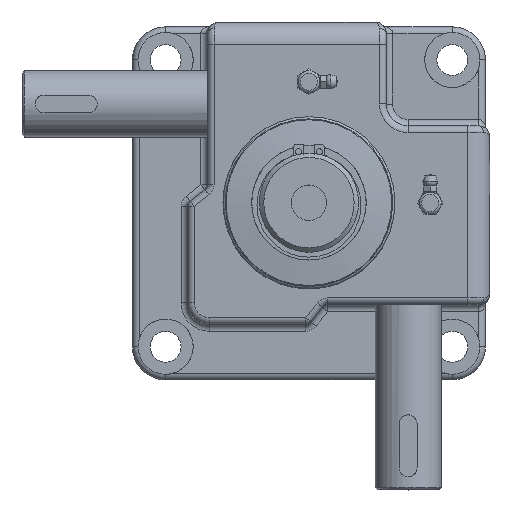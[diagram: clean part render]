
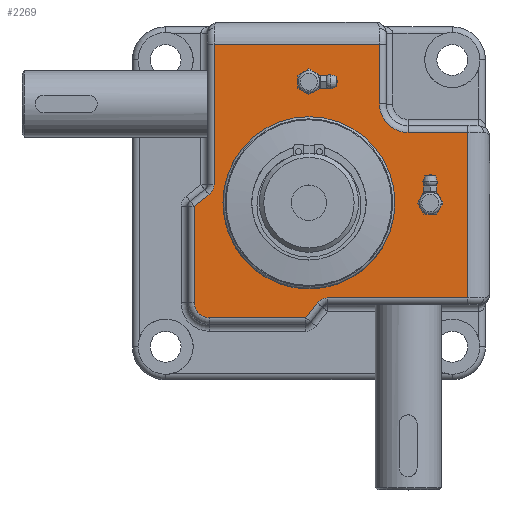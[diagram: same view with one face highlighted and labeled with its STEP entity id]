
A CAD part, top view. The second image highlights one B-rep face of the part: STEP entity #2269.
In plain terms, the highlighted planar face has unit normal (0, 0, 1).
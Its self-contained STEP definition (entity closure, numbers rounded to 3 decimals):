
#2269=ADVANCED_FACE('',(#5998,#5999,#6000,#6001),#6002,.T.);
#5998=FACE_OUTER_BOUND('',#12028,.T.);
#5999=FACE_BOUND('',#12029,.T.);
#6000=FACE_BOUND('',#12030,.T.);
#6001=FACE_BOUND('',#12031,.T.);
#6002=PLANE('',#12032);
#12028=EDGE_LOOP('',(#21237,#21238,#21239,#21240,#21241,#21242,#21243,#21244,#21245,#21246,#21247,#21248,#21249,#21250));
#12029=EDGE_LOOP('',(#21251));
#12030=EDGE_LOOP('',(#21252));
#12031=EDGE_LOOP('',(#21253));
#12032=AXIS2_PLACEMENT_3D('',#21254,#21255,#21256);
#21237=ORIENTED_EDGE('',*,*,#38950,.T.);
#21238=ORIENTED_EDGE('',*,*,#38959,.T.);
#21239=ORIENTED_EDGE('',*,*,#39336,.T.);
#21240=ORIENTED_EDGE('',*,*,#39012,.T.);
#21241=ORIENTED_EDGE('',*,*,#39337,.T.);
#21242=ORIENTED_EDGE('',*,*,#39338,.T.);
#21243=ORIENTED_EDGE('',*,*,#39339,.T.);
#21244=ORIENTED_EDGE('',*,*,#39340,.T.);
#21245=ORIENTED_EDGE('',*,*,#39031,.T.);
#21246=ORIENTED_EDGE('',*,*,#39341,.T.);
#21247=ORIENTED_EDGE('',*,*,#39342,.T.);
#21248=ORIENTED_EDGE('',*,*,#39313,.T.);
#21249=ORIENTED_EDGE('',*,*,#39343,.T.);
#21250=ORIENTED_EDGE('',*,*,#39344,.T.);
#21251=ORIENTED_EDGE('',*,*,#39345,.T.);
#21252=ORIENTED_EDGE('',*,*,#39346,.F.);
#21253=ORIENTED_EDGE('',*,*,#39137,.F.);
#21254=CARTESIAN_POINT('',(0.0,0.0,37.5));
#21255=DIRECTION('',(0.,0.,1.0));
#21256=DIRECTION('',(1.0,0.,0.));
#38950=EDGE_CURVE('',#46523,#46521,#46524,.T.);
#38959=EDGE_CURVE('',#46521,#46536,#46538,.T.);
#39012=EDGE_CURVE('',#46633,#46333,#46637,.T.);
#39031=EDGE_CURVE('',#46666,#46670,#46672,.T.);
#39137=EDGE_CURVE('',#46865,#46865,#46866,.T.);
#39313=EDGE_CURVE('',#47154,#47158,#47160,.T.);
#39336=EDGE_CURVE('',#46536,#46633,#47192,.T.);
#39337=EDGE_CURVE('',#46333,#47193,#47194,.T.);
#39338=EDGE_CURVE('',#47193,#47195,#47196,.T.);
#39339=EDGE_CURVE('',#47195,#47197,#47198,.T.);
#39340=EDGE_CURVE('',#47197,#46666,#47199,.T.);
#39341=EDGE_CURVE('',#46670,#47200,#47201,.T.);
#39342=EDGE_CURVE('',#47200,#47154,#47202,.T.);
#39343=EDGE_CURVE('',#47158,#47203,#47204,.T.);
#39344=EDGE_CURVE('',#47203,#46523,#47205,.T.);
#39345=EDGE_CURVE('',#47206,#47206,#47207,.T.);
#39346=EDGE_CURVE('',#47208,#47208,#47209,.T.);
#46333=VERTEX_POINT('',#59152);
#46521=VERTEX_POINT('',#59645);
#46523=VERTEX_POINT('',#59647);
#46524=LINE('',#59648,#59649);
#46536=VERTEX_POINT('',#59687);
#46538=LINE('',#59689,#59690);
#46633=VERTEX_POINT('',#59805);
#46637=LINE('',#59810,#59811);
#46666=VERTEX_POINT('',#59847);
#46670=VERTEX_POINT('',#59852);
#46672=LINE('',#59854,#59855);
#46865=VERTEX_POINT('',#60309);
#46866=CIRCLE('',#60310,4.0);
#47154=VERTEX_POINT('',#60730);
#47158=VERTEX_POINT('',#60735);
#47160=LINE('',#60737,#60738);
#47192=CIRCLE('',#60779,13.0);
#47193=VERTEX_POINT('',#60780);
#47194=LINE('',#60781,#60782);
#47195=VERTEX_POINT('',#60783);
#47196=LINE('',#60784,#60785);
#47197=VERTEX_POINT('',#60786);
#47198=CIRCLE('',#60787,6.0);
#47199=LINE('',#60788,#60789);
#47200=VERTEX_POINT('',#60790);
#47201=CIRCLE('',#60791,7.0);
#47202=LINE('',#60792,#60793);
#47203=VERTEX_POINT('',#60794);
#47204=CIRCLE('',#60795,6.0);
#47205=LINE('',#60796,#60797);
#47206=VERTEX_POINT('',#60798);
#47207=CIRCLE('',#60799,37.0);
#47208=VERTEX_POINT('',#60800);
#47209=CIRCLE('',#60801,4.0);
#59152=CARTESIAN_POINT('',(32.0,72.0,37.5));
#59645=CARTESIAN_POINT('',(72.0,32.0,37.5));
#59647=CARTESIAN_POINT('',(72.0,-43.0,37.5));
#59648=CARTESIAN_POINT('',(72.0,13.5,37.5));
#59649=VECTOR('',#76640,1.0);
#59687=CARTESIAN_POINT('',(45.0,32.0,37.5));
#59689=CARTESIAN_POINT('',(8.5,32.0,37.5));
#59690=VECTOR('',#76657,1.0);
#59805=CARTESIAN_POINT('',(32.0,45.,37.5));
#59810=CARTESIAN_POINT('',(32.0,8.5,37.5));
#59811=VECTOR('',#76772,1.0);
#59847=CARTESIAN_POINT('',(-52.0,-1.463,37.5));
#59852=CARTESIAN_POINT('',(-52.0,-45.0,37.5));
#59854=CARTESIAN_POINT('',(-52.0,8.5,37.5));
#59855=VECTOR('',#76817,1.0);
#60309=CARTESIAN_POINT('',(4.0,55.0,37.5));
#60310=AXIS2_PLACEMENT_3D('',#77003,#77004,#77005);
#60730=CARTESIAN_POINT('',(-1.463,-52.0,37.5));
#60735=CARTESIAN_POINT('',(3.767,-45.306,37.5));
#60737=CARTESIAN_POINT('',(36.874,-2.93,37.5));
#60738=VECTOR('',#77339,1.0);
#60779=AXIS2_PLACEMENT_3D('',#77388,#77389,#77390);
#60780=CARTESIAN_POINT('',(-43.0,72.0,37.5));
#60781=CARTESIAN_POINT('',(8.5,72.0,37.5));
#60782=VECTOR('',#77391,1.0);
#60783=CARTESIAN_POINT('',(-43.0,8.495,37.5));
#60784=CARTESIAN_POINT('',(-43.0,8.5,37.5));
#60785=VECTOR('',#77392,1.0);
#60786=CARTESIAN_POINT('',(-45.306,3.767,37.5));
#60787=AXIS2_PLACEMENT_3D('',#77393,#77394,#77395);
#60788=CARTESIAN_POINT('',(-2.93,36.874,37.5));
#60789=VECTOR('',#77396,1.0);
#60790=CARTESIAN_POINT('',(-45.,-52.0,37.5));
#60791=AXIS2_PLACEMENT_3D('',#77397,#77398,#77399);
#60792=CARTESIAN_POINT('',(8.5,-52.0,37.5));
#60793=VECTOR('',#77400,1.0);
#60794=CARTESIAN_POINT('',(8.495,-43.0,37.5));
#60795=AXIS2_PLACEMENT_3D('',#77401,#77402,#77403);
#60796=CARTESIAN_POINT('',(8.5,-43.0,37.5));
#60797=VECTOR('',#77404,1.0);
#60798=CARTESIAN_POINT('',(37.0,0.,37.5));
#60799=AXIS2_PLACEMENT_3D('',#77405,#77406,#77407);
#60800=CARTESIAN_POINT('',(59.0,0.,37.5));
#60801=AXIS2_PLACEMENT_3D('',#77408,#77409,#77410);
#76640=DIRECTION('',(0.0,1.0,0.));
#76657=DIRECTION('',(-1.0,0.0,0.));
#76772=DIRECTION('',(0.0,1.0,0.));
#76817=DIRECTION('',(0.0,-1.0,0.));
#77003=CARTESIAN_POINT('',(0.0,55.0,37.5));
#77004=DIRECTION('',(0.,0.,1.0));
#77005=DIRECTION('',(1.0,0.,0.));
#77339=DIRECTION('',(0.616,0.788,0.));
#77388=CARTESIAN_POINT('',(45.0,45.0,37.5));
#77389=DIRECTION('',(0.0,0.0,-1.0));
#77390=DIRECTION('',(1.0,0.0,0.0));
#77391=DIRECTION('',(-1.0,0.0,0.));
#77392=DIRECTION('',(0.0,-1.0,0.));
#77393=CARTESIAN_POINT('',(-49.0,8.495,37.5));
#77394=DIRECTION('',(0.,0.,-1.0));
#77395=DIRECTION('',(1.0,0.,0.));
#77396=DIRECTION('',(-0.788,-0.616,0.));
#77397=CARTESIAN_POINT('',(-45.0,-45.0,37.5));
#77398=DIRECTION('',(0.0,0.0,1.0));
#77399=DIRECTION('',(1.0,0.0,0.0));
#77400=DIRECTION('',(1.0,0.0,0.));
#77401=CARTESIAN_POINT('',(8.495,-49.0,37.5));
#77402=DIRECTION('',(0.0,0.0,-1.0));
#77403=DIRECTION('',(1.0,0.0,0.0));
#77404=DIRECTION('',(1.0,0.0,0.));
#77405=CARTESIAN_POINT('',(0.0,0.,37.5));
#77406=DIRECTION('',(0.,0.,-1.0));
#77407=DIRECTION('',(1.0,0.,0.));
#77408=CARTESIAN_POINT('',(55.0,0.,37.5));
#77409=DIRECTION('',(0.,0.,1.0));
#77410=DIRECTION('',(1.0,0.,0.));
